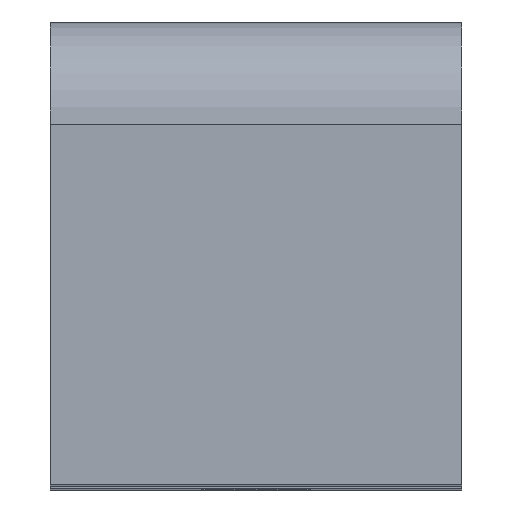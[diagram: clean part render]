
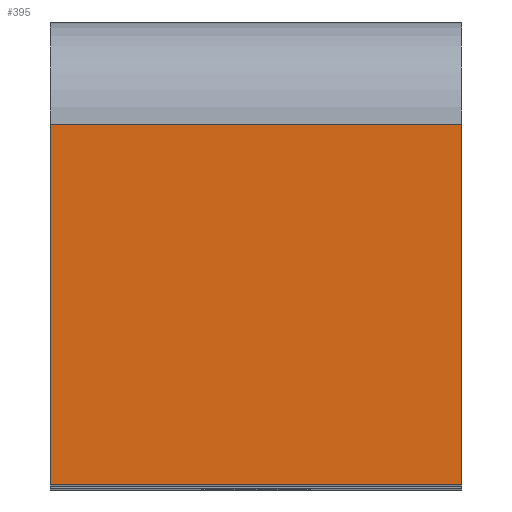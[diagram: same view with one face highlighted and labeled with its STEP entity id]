
A CAD part, top view. The second image highlights one B-rep face of the part: STEP entity #395.
In plain terms, the highlighted planar face has unit normal (0, 0, 1).
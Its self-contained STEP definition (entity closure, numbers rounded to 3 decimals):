
#22 = VERTEX_POINT('',#23);
#23 = CARTESIAN_POINT('',(120.,436.05,128.));
#33 = PLANE('',#34);
#34 = AXIS2_PLACEMENT_3D('',#35,#36,#37);
#35 = CARTESIAN_POINT('',(120.,422.05,12.));
#36 = DIRECTION('',(1.,0.,0.));
#37 = DIRECTION('',(0.,0.,1.));
#49 = CYLINDRICAL_SURFACE('',#50,4.);
#50 = AXIS2_PLACEMENT_3D('',#51,#52,#53);
#51 = CARTESIAN_POINT('',(120.,436.05,124.));
#52 = DIRECTION('',(1.,0.,0.));
#53 = DIRECTION('',(0.,0.,1.));
#61 = EDGE_CURVE('',#62,#22,#64,.T.);
#62 = VERTEX_POINT('',#63);
#63 = CARTESIAN_POINT('',(120.,422.05,128.));
#64 = SURFACE_CURVE('',#65,(#69,#76),.PCURVE_S1.);
#65 = LINE('',#66,#67);
#66 = CARTESIAN_POINT('',(120.,422.05,128.));
#67 = VECTOR('',#68,1.);
#68 = DIRECTION('',(0.,1.,0.));
#69 = PCURVE('',#33,#70);
#70 = DEFINITIONAL_REPRESENTATION('',(#71),#75);
#71 = LINE('',#72,#73);
#72 = CARTESIAN_POINT('',(116.,0.));
#73 = VECTOR('',#74,1.);
#74 = DIRECTION('',(0.,-1.));
#75 = ( GEOMETRIC_REPRESENTATION_CONTEXT(2) 
PARAMETRIC_REPRESENTATION_CONTEXT() REPRESENTATION_CONTEXT('2D SPACE',''
  ) );
#76 = PCURVE('',#77,#82);
#77 = PLANE('',#78);
#78 = AXIS2_PLACEMENT_3D('',#79,#80,#81);
#79 = CARTESIAN_POINT('',(120.,422.05,128.));
#80 = DIRECTION('',(0.,0.,1.));
#81 = DIRECTION('',(1.,0.,0.));
#82 = DEFINITIONAL_REPRESENTATION('',(#83),#87);
#83 = LINE('',#84,#85);
#84 = CARTESIAN_POINT('',(0.,0.));
#85 = VECTOR('',#86,1.);
#86 = DIRECTION('',(0.,1.));
#87 = ( GEOMETRIC_REPRESENTATION_CONTEXT(2) 
PARAMETRIC_REPRESENTATION_CONTEXT() REPRESENTATION_CONTEXT('2D SPACE',''
  ) );
#105 = PLANE('',#106);
#106 = AXIS2_PLACEMENT_3D('',#107,#108,#109);
#107 = CARTESIAN_POINT('',(120.,422.05,12.));
#108 = DIRECTION('',(0.,1.,0.));
#109 = DIRECTION('',(0.,0.,1.));
#343 = VERTEX_POINT('',#344);
#344 = CARTESIAN_POINT('',(136.,436.05,128.));
#359 = PLANE('',#360);
#360 = AXIS2_PLACEMENT_3D('',#361,#362,#363);
#361 = CARTESIAN_POINT('',(136.,422.05,12.));
#362 = DIRECTION('',(1.,0.,0.));
#363 = DIRECTION('',(0.,0.,1.));
#375 = EDGE_CURVE('',#22,#343,#376,.T.);
#376 = SURFACE_CURVE('',#377,(#381,#388),.PCURVE_S1.);
#377 = LINE('',#378,#379);
#378 = CARTESIAN_POINT('',(120.,436.05,128.));
#379 = VECTOR('',#380,1.);
#380 = DIRECTION('',(1.,0.,0.));
#381 = PCURVE('',#49,#382);
#382 = DEFINITIONAL_REPRESENTATION('',(#383),#387);
#383 = LINE('',#384,#385);
#384 = CARTESIAN_POINT('',(-0.,0.));
#385 = VECTOR('',#386,1.);
#386 = DIRECTION('',(-0.,1.));
#387 = ( GEOMETRIC_REPRESENTATION_CONTEXT(2) 
PARAMETRIC_REPRESENTATION_CONTEXT() REPRESENTATION_CONTEXT('2D SPACE',''
  ) );
#388 = PCURVE('',#77,#389);
#389 = DEFINITIONAL_REPRESENTATION('',(#390),#394);
#390 = LINE('',#391,#392);
#391 = CARTESIAN_POINT('',(0.,14.));
#392 = VECTOR('',#393,1.);
#393 = DIRECTION('',(1.,0.));
#394 = ( GEOMETRIC_REPRESENTATION_CONTEXT(2) 
PARAMETRIC_REPRESENTATION_CONTEXT() REPRESENTATION_CONTEXT('2D SPACE',''
  ) );
#395 = ADVANCED_FACE('',(#396),#77,.T.);
#396 = FACE_BOUND('',#397,.T.);
#397 = EDGE_LOOP('',(#398,#399,#422,#443));
#398 = ORIENTED_EDGE('',*,*,#61,.F.);
#399 = ORIENTED_EDGE('',*,*,#400,.T.);
#400 = EDGE_CURVE('',#62,#401,#403,.T.);
#401 = VERTEX_POINT('',#402);
#402 = CARTESIAN_POINT('',(136.,422.05,128.));
#403 = SURFACE_CURVE('',#404,(#408,#415),.PCURVE_S1.);
#404 = LINE('',#405,#406);
#405 = CARTESIAN_POINT('',(120.,422.05,128.));
#406 = VECTOR('',#407,1.);
#407 = DIRECTION('',(1.,0.,0.));
#408 = PCURVE('',#77,#409);
#409 = DEFINITIONAL_REPRESENTATION('',(#410),#414);
#410 = LINE('',#411,#412);
#411 = CARTESIAN_POINT('',(0.,0.));
#412 = VECTOR('',#413,1.);
#413 = DIRECTION('',(1.,0.));
#414 = ( GEOMETRIC_REPRESENTATION_CONTEXT(2) 
PARAMETRIC_REPRESENTATION_CONTEXT() REPRESENTATION_CONTEXT('2D SPACE',''
  ) );
#415 = PCURVE('',#105,#416);
#416 = DEFINITIONAL_REPRESENTATION('',(#417),#421);
#417 = LINE('',#418,#419);
#418 = CARTESIAN_POINT('',(116.,0.));
#419 = VECTOR('',#420,1.);
#420 = DIRECTION('',(0.,1.));
#421 = ( GEOMETRIC_REPRESENTATION_CONTEXT(2) 
PARAMETRIC_REPRESENTATION_CONTEXT() REPRESENTATION_CONTEXT('2D SPACE',''
  ) );
#422 = ORIENTED_EDGE('',*,*,#423,.T.);
#423 = EDGE_CURVE('',#401,#343,#424,.T.);
#424 = SURFACE_CURVE('',#425,(#429,#436),.PCURVE_S1.);
#425 = LINE('',#426,#427);
#426 = CARTESIAN_POINT('',(136.,422.05,128.));
#427 = VECTOR('',#428,1.);
#428 = DIRECTION('',(0.,1.,0.));
#429 = PCURVE('',#77,#430);
#430 = DEFINITIONAL_REPRESENTATION('',(#431),#435);
#431 = LINE('',#432,#433);
#432 = CARTESIAN_POINT('',(16.,0.));
#433 = VECTOR('',#434,1.);
#434 = DIRECTION('',(0.,1.));
#435 = ( GEOMETRIC_REPRESENTATION_CONTEXT(2) 
PARAMETRIC_REPRESENTATION_CONTEXT() REPRESENTATION_CONTEXT('2D SPACE',''
  ) );
#436 = PCURVE('',#359,#437);
#437 = DEFINITIONAL_REPRESENTATION('',(#438),#442);
#438 = LINE('',#439,#440);
#439 = CARTESIAN_POINT('',(116.,0.));
#440 = VECTOR('',#441,1.);
#441 = DIRECTION('',(0.,-1.));
#442 = ( GEOMETRIC_REPRESENTATION_CONTEXT(2) 
PARAMETRIC_REPRESENTATION_CONTEXT() REPRESENTATION_CONTEXT('2D SPACE',''
  ) );
#443 = ORIENTED_EDGE('',*,*,#375,.F.);
